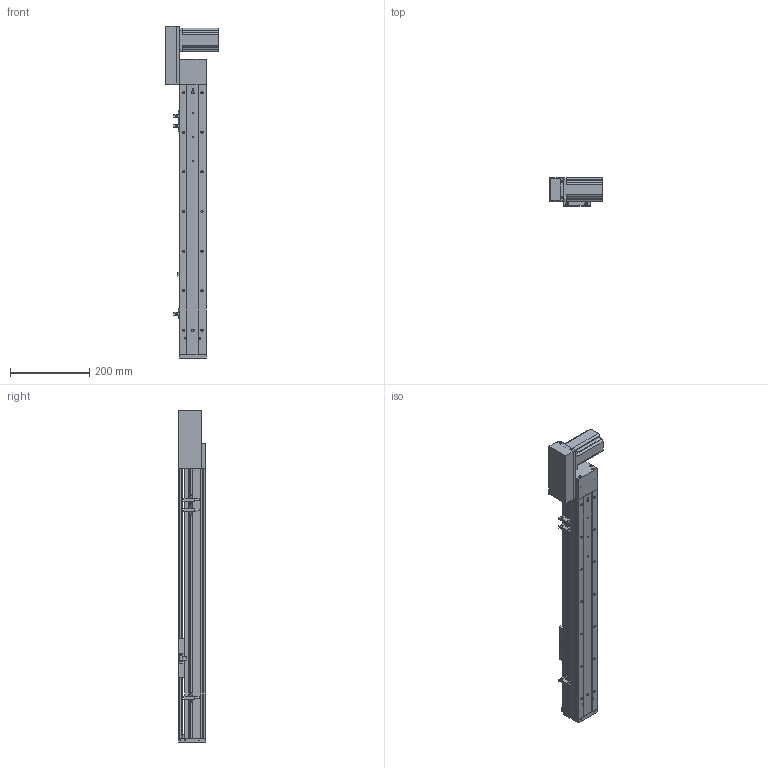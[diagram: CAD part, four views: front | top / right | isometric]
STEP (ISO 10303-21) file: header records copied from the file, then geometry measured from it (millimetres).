
FILE_DESCRIPTION (( 'STEP AP203' ), '1' );
FILE_NAME ('ML68-S500-CR.STEP', '2016-08-04T12:45:08', ( '' ), ( '' ), 'SwSTEP 2.0', 'SolidWorks 2014', '' );
FILE_SCHEMA (( 'CONFIG_CONTROL_DESIGN' ));
Length unit declared in the file: millimetre
Products named in the file (12): ML68傷啣; 60換覜結え; ML68-S500-CR; 換覜ん; 葩璃 ML68菁釱^ML68-S500-CR; ML68滅鳥啣盓傅輸; ML68奻裔^ML68-S500-CR; QS68左右折电机板罩子; ML68雄赽釱; QS68酘衵殏萇儂啣; ML68-BL傷啣; 三协电机MH201N2_預設
Assembly tree (13 placements, depth 2):
  ML68-S500-CR
    葩璃 ML68菁釱^ML68-S500-CR
    ML68奻裔^ML68-S500-CR
    ML68傷啣
    ML68-BL傷啣
    60換覜結え
    換覜ん  x3
    三协电机MH201N2_預設
    ML68雄赽釱
    QS68酘衵殏萇儂啣
    QS68左右折电机板罩子
    ML68滅鳥啣盓傅輸
Bounding box: 133.5 x 70.5 x 838.5 mm (x, y, z)
Volume: 1544226.8 mm3; surface area: 562886.5 mm2
Topology: 13 solids, 13 shells, 905 faces, 2476 edges, 1569 vertices
Faces by surface type: cylinder 412, plane 397, cone 96
Entity records: 28640 total; most frequent: CARTESIAN_POINT 5466, DIRECTION 4690, ORIENTED_EDGE 4452, EDGE_CURVE 2226, AXIS2_PLACEMENT_3D 1693, VERTEX_POINT 1457, LINE 1304, VECTOR 1304
